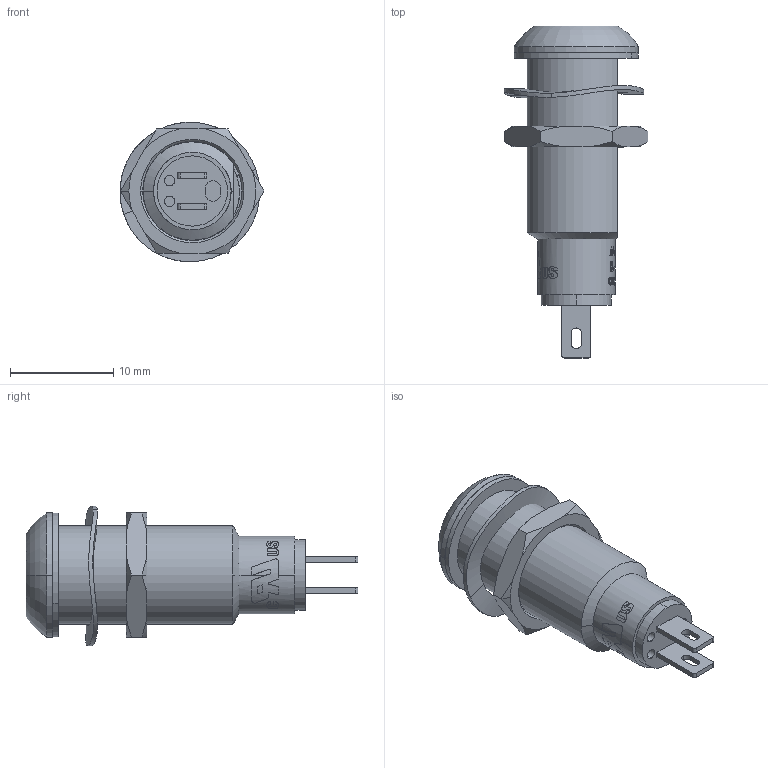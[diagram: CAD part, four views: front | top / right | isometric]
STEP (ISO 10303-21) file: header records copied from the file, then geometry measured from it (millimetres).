
FILE_DESCRIPTION (( 'STEP AP203' ), '1' );
FILE_NAME ('690 SERIES.STEP', '2013-09-16T12:24:04', ( 'mark' ), ( '' ), 'SwSTEP 2.0', 'SolidWorks 2013', '' );
FILE_SCHEMA (( 'CONFIG_CONTROL_DESIGN' ));
Length unit declared in the file: millimetre
Products named in the file (1): 690 SERIES
Bounding box: 13.91 x 32.1 x 13.49 mm (x, y, z)
Surface area: 1589.7 mm2 (no closed solid volume)
Topology: 0 solids, 16 shells, 220 faces, 1156 edges, 926 vertices
Faces by surface type: plane 90, cylinder 66, bspline 42, cone 20, torus 2
Entity records: 16281 total; most frequent: CARTESIAN_POINT 8442, ORIENTED_EDGE 1564, DIRECTION 1190, EDGE_CURVE 1156, VERTEX_POINT 926, B_SPLINE_CURVE_WITH_KNOTS 496, LINE 408, VECTOR 408
